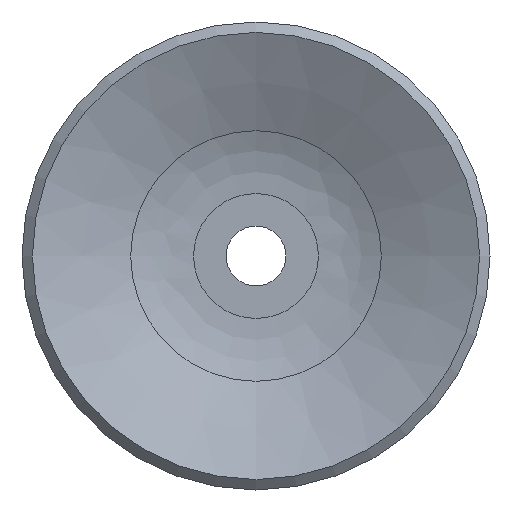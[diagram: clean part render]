
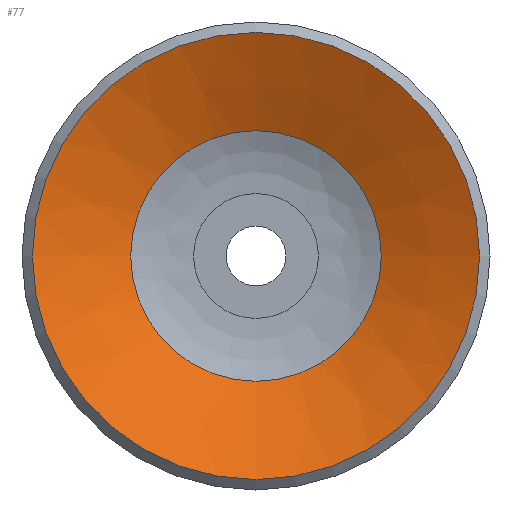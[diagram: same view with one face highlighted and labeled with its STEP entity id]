
A CAD part, front view. The second image highlights one B-rep face of the part: STEP entity #77.
In plain terms, the highlighted conical face has half-angle 65.056 degrees and reference radius 3.2 mm.
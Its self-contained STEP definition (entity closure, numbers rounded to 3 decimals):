
#77=ADVANCED_FACE('',(#101,#102),#103,.F.);
#101=FACE_BOUND('',#158,.T.);
#102=FACE_OUTER_BOUND('',#159,.T.);
#103=CONICAL_SURFACE('',#160,3.2,1.135);
#158=EDGE_LOOP('',(#253));
#159=EDGE_LOOP('',(#254));
#160=AXIS2_PLACEMENT_3D('',#255,#256,#257);
#253=ORIENTED_EDGE('',*,*,#339,.T.);
#254=ORIENTED_EDGE('',*,*,#340,.T.);
#255=CARTESIAN_POINT('',(0.0,7.896,0.0));
#256=DIRECTION('',(-0.0,-1.0,0.));
#257=DIRECTION('',(0.0,0.,-1.0));
#339=EDGE_CURVE('',#362,#362,#363,.F.);
#340=EDGE_CURVE('',#364,#364,#365,.T.);
#362=VERTEX_POINT('',#400);
#363=CIRCLE('',#401,4.203);
#364=VERTEX_POINT('',#402);
#365=CIRCLE('',#403,7.5);
#400=CARTESIAN_POINT('',(0.0,7.43,-4.203));
#401=AXIS2_PLACEMENT_3D('',#442,#443,#444);
#402=CARTESIAN_POINT('',(7.5,5.896,0.0));
#403=AXIS2_PLACEMENT_3D('',#445,#446,#447);
#442=CARTESIAN_POINT('',(0.0,7.43,0.));
#443=DIRECTION('',(0.0,-1.0,0.));
#444=DIRECTION('',(0.0,0.,-1.0));
#445=CARTESIAN_POINT('',(0.0,5.896,0.0));
#446=DIRECTION('',(0.0,-1.0,0.));
#447=DIRECTION('',(0.0,0.,-1.0));
